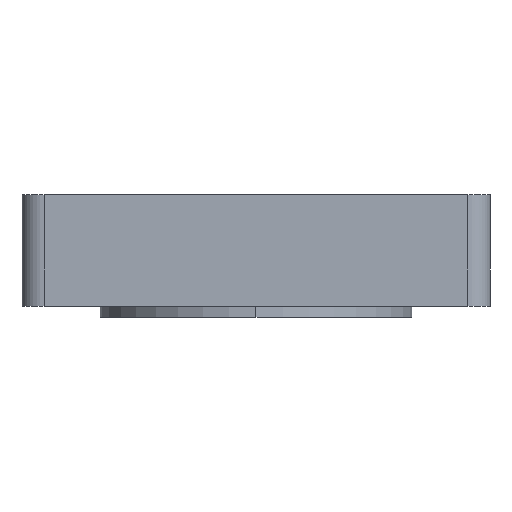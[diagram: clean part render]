
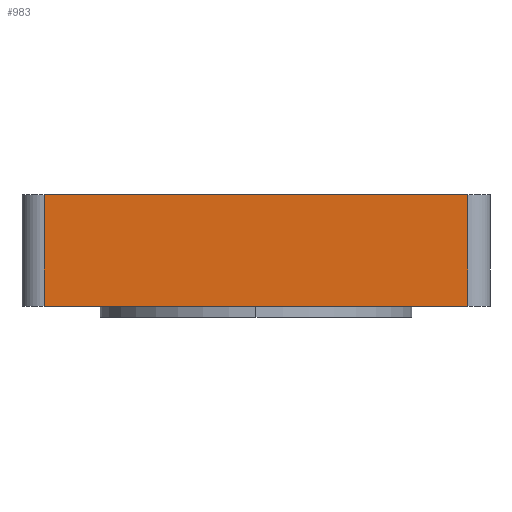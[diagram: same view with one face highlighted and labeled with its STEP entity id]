
A CAD part, left-side view. The second image highlights one B-rep face of the part: STEP entity #983.
In plain terms, the highlighted planar face has unit normal (-1, 0, 0).
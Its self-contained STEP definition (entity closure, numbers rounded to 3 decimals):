
#3 = EDGE_CURVE ( 'NONE', #1233, #135, #1264, .T. ) ;
#19 = LINE ( 'NONE', #705, #1211 ) ;
#40 = LINE ( 'NONE', #522, #530 ) ;
#78 = CARTESIAN_POINT ( 'NONE',  ( -21., -19., 0. ) ) ;
#81 = ORIENTED_EDGE ( 'NONE', *, *, #549, .T. ) ;
#135 = VERTEX_POINT ( 'NONE', #1281 ) ;
#184 = DIRECTION ( 'NONE',  ( 0., -1., 0. ) ) ;
#207 = FACE_OUTER_BOUND ( 'NONE', #276, .T. ) ;
#231 = EDGE_CURVE ( 'NONE', #1461, #1233, #40, .T. ) ;
#236 = DIRECTION ( 'NONE',  ( 1., 0., 0. ) ) ;
#251 = DIRECTION ( 'NONE',  ( 0., 0., -1. ) ) ;
#252 = CARTESIAN_POINT ( 'NONE',  ( -21., -21., 10. ) ) ;
#276 = EDGE_LOOP ( 'NONE', ( #669, #955, #1253, #81 ) ) ;
#485 = PLANE ( 'NONE',  #1141 ) ;
#491 = LINE ( 'NONE', #1404, #846 ) ;
#522 = CARTESIAN_POINT ( 'NONE',  ( -21., -21., 0. ) ) ;
#530 = VECTOR ( 'NONE', #184, 1000. ) ;
#549 = EDGE_CURVE ( 'NONE', #1234, #1461, #19, .T. ) ;
#585 = CARTESIAN_POINT ( 'NONE',  ( -21., 19., 0. ) ) ;
#669 = ORIENTED_EDGE ( 'NONE', *, *, #231, .T. ) ;
#702 = DIRECTION ( 'NONE',  ( 0., 0., 1. ) ) ;
#705 = CARTESIAN_POINT ( 'NONE',  ( -21., 19., 10. ) ) ;
#821 = DIRECTION ( 'NONE',  ( 0., 0., -1. ) ) ;
#822 = CARTESIAN_POINT ( 'NONE',  ( -21., -19., 10. ) ) ;
#846 = VECTOR ( 'NONE', #949, 1000. ) ;
#866 = CARTESIAN_POINT ( 'NONE',  ( -21., 19., 10. ) ) ;
#949 = DIRECTION ( 'NONE',  ( 0., -1., 0. ) ) ;
#955 = ORIENTED_EDGE ( 'NONE', *, *, #3, .T. ) ;
#983 = ADVANCED_FACE ( 'NONE', ( #207 ), #485, .F. ) ;
#1113 = EDGE_CURVE ( 'NONE', #1234, #135, #491, .T. ) ;
#1141 = AXIS2_PLACEMENT_3D ( 'NONE', #252, #236, #821 ) ;
#1211 = VECTOR ( 'NONE', #251, 1000. ) ;
#1233 = VERTEX_POINT ( 'NONE', #78 ) ;
#1234 = VERTEX_POINT ( 'NONE', #866 ) ;
#1253 = ORIENTED_EDGE ( 'NONE', *, *, #1113, .F. ) ;
#1264 = LINE ( 'NONE', #822, #1472 ) ;
#1281 = CARTESIAN_POINT ( 'NONE',  ( -21., -19., 10. ) ) ;
#1404 = CARTESIAN_POINT ( 'NONE',  ( -21., -21., 10. ) ) ;
#1461 = VERTEX_POINT ( 'NONE', #585 ) ;
#1472 = VECTOR ( 'NONE', #702, 1000. ) ;
